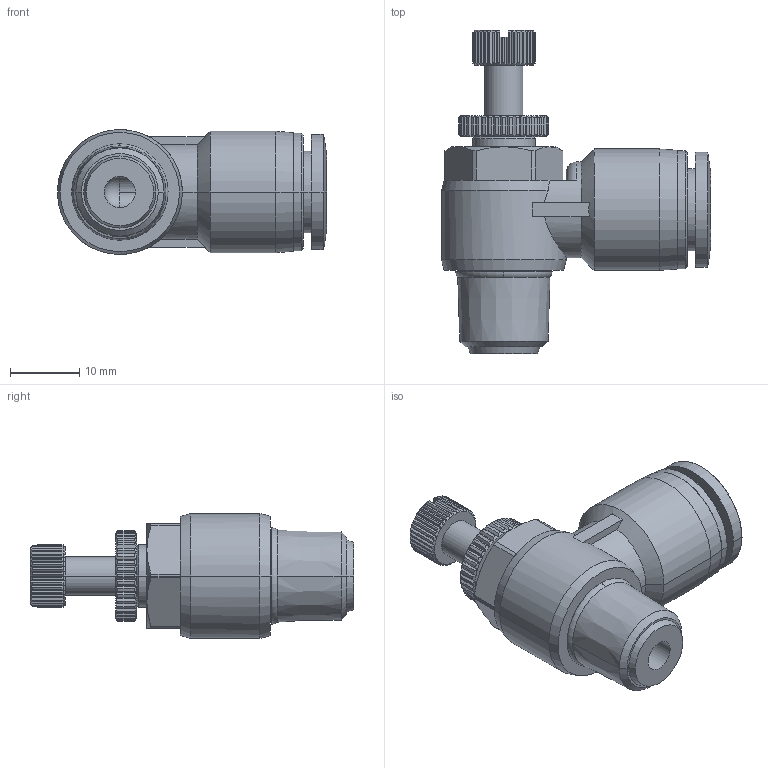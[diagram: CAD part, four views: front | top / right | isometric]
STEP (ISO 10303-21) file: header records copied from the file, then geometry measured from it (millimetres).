
FILE_DESCRIPTION (( 'STEP AP203' ), '1' );
FILE_NAME ('SCL10-02.STEP', '2020-05-12T15:37:14', ( '' ), ( '' ), 'SwSTEP 2.0', 'SolidWorks 2019', '' );
FILE_SCHEMA (( 'CONFIG_CONTROL_DESIGN' ));
Length unit declared in the file: millimetre
Products named in the file (1): SCL10-02
Bounding box: 38.8 x 46.6 x 18 mm (x, y, z)
Volume: 9117.1 mm3; surface area: 5137.8 mm2
Topology: 1 solids, 1 shells, 421 faces, 1034 edges, 626 vertices
Faces by surface type: plane 188, cone 114, cylinder 111, torus 5, bspline 2, sphere 1
Entity records: 12254 total; most frequent: CARTESIAN_POINT 3037, ORIENTED_EDGE 2066, DIRECTION 1891, EDGE_CURVE 1033, AXIS2_PLACEMENT_3D 780, VERTEX_POINT 626, EDGE_LOOP 435, ADVANCED_FACE 421
